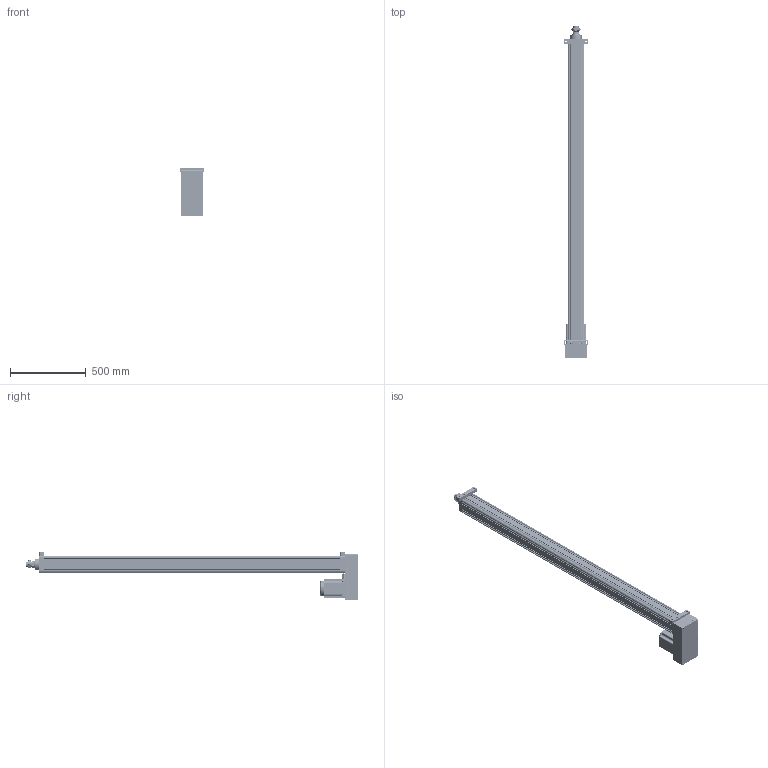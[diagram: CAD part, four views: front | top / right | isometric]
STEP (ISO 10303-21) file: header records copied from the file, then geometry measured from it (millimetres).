
FILE_DESCRIPTION((''),'2;1');
FILE_NAME('HE100-D-P_ASM','2020-05-06T',('ASUS20200'),(''),'CREO PARAMETRIC BY PTC INC, 2014190','CREO PARAMETRIC BY PTC INC, 2014190','');
FILE_SCHEMA(('CONFIG_CONTROL_DESIGN'));
Products named in the file (46): HE100-D-P-001-X1; HE100-D-P-002-X1; HE100-D-P-003-X1; 30305J; SFNHR03205B1-001-X1; SFNHR03205B1-002-X1; SFNHR03205B1-ST_ASM; HE100-D-P-004-X1; HE100-D-P-006-X1; HE100-D-P-007-X2; HE100-D-P-007-X1-2; M3X8-PB; HE100-D-P-HST_ASM; HE100-D-P-005-X1; TD-8; M8X30; LGLM-M10-25; K-M25X1-5P-36; JX6X6X30; JDB506030; HE80-D-P-008-X1; SLM-01; YZ-M6X1; HE100-GT2535-17; HE100-100-D-P-X1_ASM; HE100-P-010-X1-130N; 130ST-M10010; HE100-P-S8M300-32-20K6; HE100-P-012-X1; M10X25; HE100-P-009-X1-130N; HE100-P-013-X1-130N; M8X35; M8X75; LM-M8-7-5; HE100-P-S8M300-32-40; HE100-P-S8M-576-30; M10X1-25-40; LM-M10-30; LM-M10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
Assembly tree (91 placements, depth 4):
  HE100-D-P_ASM
    HE100-100-D-P-X1_ASM
      HE100-D-P-001-X1
      HE100-D-P-002-X1
      HE100-D-P-003-X1
      30305J  x2
      SFNHR03205B1-ST_ASM
        SFNHR03205B1-001-X1
        SFNHR03205B1-002-X1
      HE100-D-P-HST_ASM
        HE100-D-P-004-X1
        HE100-D-P-006-X1
        HE100-D-P-007-X2
        HE100-D-P-007-X1-2
        M3X8-PB  x5
      HE100-D-P-005-X1
      TD-8  x6
      M8X30  x6
      LGLM-M10-25  x8
      K-M25X1-5P-36
      JX6X6X30
      JDB506030
      HE80-D-P-008-X1
      SLM-01
      YZ-M6X1
      HE100-GT2535-17
    HE100-P-010-X1-130N
    130ST-M10010
    HE100-P-S8M300-32-20K6
    HE100-P-012-X1
    M10X25  x4
    HE100-P-009-X1-130N
    HE100-P-013-X1-130N
    TD-8  x4
    M8X35  x4
    M8X75  x6
    LM-M8-7-5  x4
    HE100-P-S8M300-32-40
    HE100-P-S8M-576-30
    M10X1-25-40
    LM-M10-30
    LM-M10
    Z21-22-40
    HE100-D-P-015-X1
    HE100-D-P-016-X1
    TD-10  x4
    M10X35  x4
Bounding box: 165 x 2194 x 315 mm (x, y, z)
Volume: 14024677.4 mm3; surface area: 4011326.3 mm2
Topology: 88 solids, 148 shells, 4681 faces, 11384 edges, 7026 vertices
Faces by surface type: cylinder 1731, plane 1654, cone 1023, torus 196, sphere 50, bspline 27
Entity records: 119947 total; most frequent: CARTESIAN_POINT 29035, DIRECTION 20451, ORIENTED_EDGE 17850, EDGE_CURVE 9042, AXIS2_PLACEMENT_3D 8164, VERTEX_POINT 5611, CIRCLE 4292, VECTOR 4123
